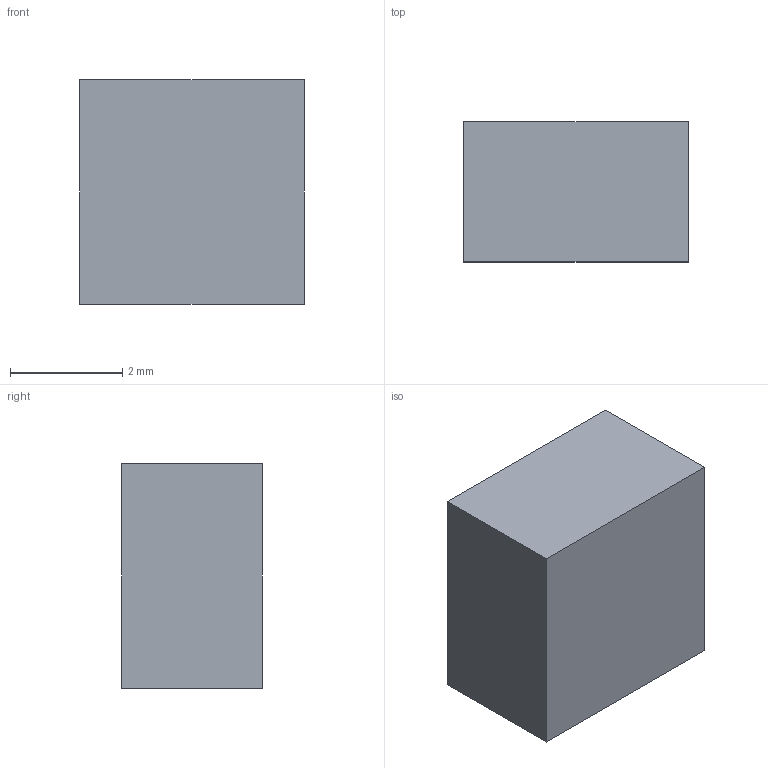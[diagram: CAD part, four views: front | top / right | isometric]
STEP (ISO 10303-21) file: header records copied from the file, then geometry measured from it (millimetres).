
FILE_DESCRIPTION(('Open CASCADE Model'),'2;1');
FILE_NAME('battery_foam_pad_PORON_3_0to2_5_3','2026-09-08T13:43:18',( 'Author'),('Open CASCADE'),'Open CASCADE STEP processor 7.8', 'build123d','Unknown');
FILE_SCHEMA(('AUTOMOTIVE_DESIGN { 1 0 10303 214 1 1 1 1 }'));
Length unit declared in the file: millimetre
Products named in the file (3): =>[0:1:1:2]; battery_foam_pad_PORON_3_0to2_5_3; SOLID
Assembly tree (2 placements, depth 3):
  =>[0:1:1:2]
    battery_foam_pad_PORON_3_0to2_5_3
      SOLID
Bounding box: 4 x 2.5 x 4 mm (x, y, z)
Volume: 40 mm3; surface area: 72 mm2
Topology: 1 solids, 1 shells, 6 faces, 12 edges, 8 vertices
Faces by surface type: plane 6
Entity records: 358 total; most frequent: DIRECTION 54, CARTESIAN_POINT 53, LINE 36, VECTOR 36, ORIENTED_EDGE 24, PCURVE 24, DEFINITIONAL_REPRESENTATION 24, EDGE_CURVE 12
